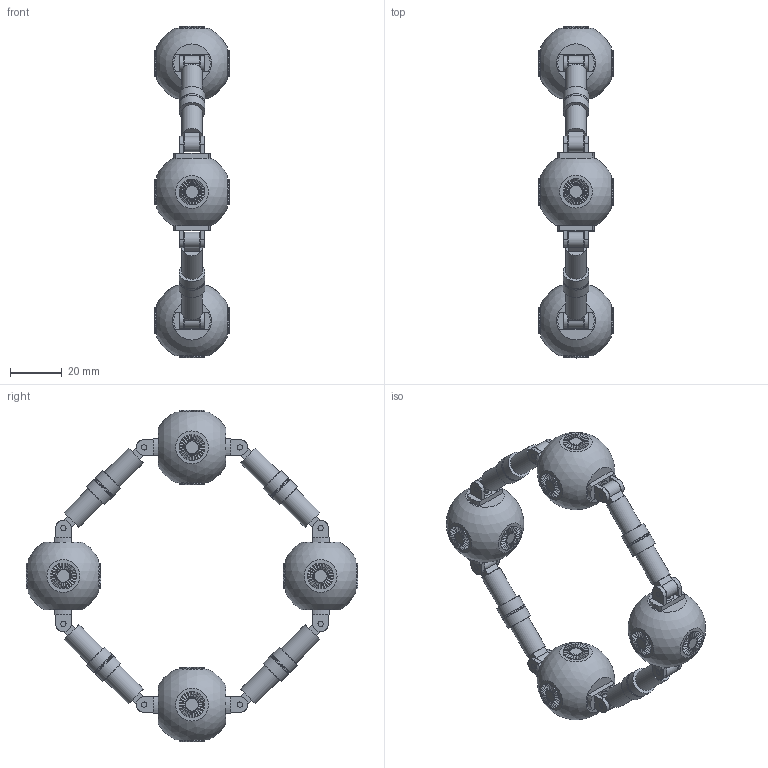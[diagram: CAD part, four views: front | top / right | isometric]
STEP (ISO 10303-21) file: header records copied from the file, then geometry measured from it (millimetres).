
FILE_DESCRIPTION(('Open CASCADE Model'),'2;1');
FILE_NAME('Open CASCADE Shape Model','2026-10-23T00:30:46',('Author'),( 'Open CASCADE'),'Open CASCADE STEP processor 7.9','Open CASCADE 7.9' ,'Unknown');
FILE_SCHEMA(('AUTOMOTIVE_DESIGN { 1 0 10303 214 1 1 1 1 }'));
Length unit declared in the file: millimetre
Products named in the file (37): ring4_square; bot0_body; bot0_turret_top; bot0_pin_top; bot0_arm_top; bot0_tip_top; bot0_turret_bottom; bot0_pin_bottom; bot0_arm_bottom; bot0_tip_bottom; bot1_body; bot1_turret_top; bot1_pin_top; bot1_arm_top; bot1_tip_top; bot1_turret_bottom; bot1_pin_bottom; bot1_arm_bottom; bot1_tip_bottom; bot2_body; bot2_turret_top; bot2_pin_top; bot2_arm_top; bot2_tip_top; bot2_turret_bottom; bot2_pin_bottom; bot2_arm_bottom; bot2_tip_bottom; bot3_body; bot3_turret_top; bot3_pin_top; bot3_arm_top; bot3_tip_top; bot3_turret_bottom; bot3_pin_bottom; bot3_arm_bottom; bot3_tip_bottom
Assembly tree (36 placements, depth 2):
  ring4_square
    bot0_body
    bot0_turret_top
    bot0_pin_top
    bot0_arm_top
    bot0_tip_top
    bot0_turret_bottom
    bot0_pin_bottom
    bot0_arm_bottom
    bot0_tip_bottom
    bot1_body
    bot1_turret_top
    bot1_pin_top
    bot1_arm_top
    bot1_tip_top
    bot1_turret_bottom
    bot1_pin_bottom
    bot1_arm_bottom
    bot1_tip_bottom
    bot2_body
    bot2_turret_top
    bot2_pin_top
    bot2_arm_top
    bot2_tip_top
    bot2_turret_bottom
    bot2_pin_bottom
    bot2_arm_bottom
    bot2_tip_bottom
    bot3_body
    bot3_turret_top
    bot3_pin_top
    bot3_arm_top
    bot3_tip_top
    bot3_turret_bottom
    bot3_pin_bottom
    bot3_arm_bottom
    bot3_tip_bottom
Bounding box: 28.8 x 128.03 x 128.03 mm (x, y, z)
Volume: 24831.7 mm3; surface area: 38144 mm2
Topology: 36 solids, 36 shells, 3520 faces, 8528 edges, 5192 vertices
Faces by surface type: cylinder 1888, bspline 1152, plane 472, sphere 8
Full cylindrical faces by diameter (mm): 2 x8, 2.04 x24, 2.6 x8, 3.8 x16, 5 x16, 5.2 x8, 6 x8, 8 x8, 10 x24, 14.967 x8
Entity records: 267005 total; most frequent: CARTESIAN_POINT 123073, DIRECTION 17222, ORIENTED_EDGE 17056, PCURVE 17056, DEFINITIONAL_REPRESENTATION 17056, B_SPLINE_CURVE_WITH_KNOTS 15336, EDGE_CURVE 8528, SURFACE_CURVE 8384
